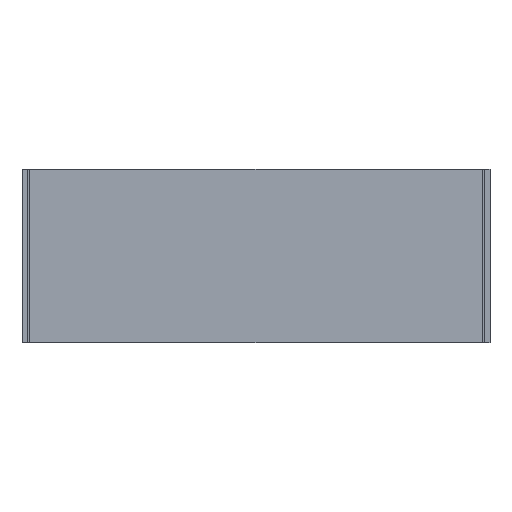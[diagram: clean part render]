
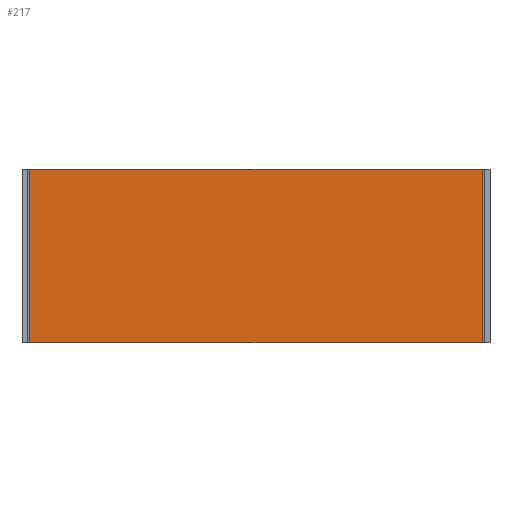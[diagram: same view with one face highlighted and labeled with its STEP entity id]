
A CAD part, front view. The second image highlights one B-rep face of the part: STEP entity #217.
In plain terms, the highlighted planar face has unit normal (0, -1, 0).
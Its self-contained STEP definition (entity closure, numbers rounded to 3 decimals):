
#4 = EDGE_LOOP ( 'NONE', ( #240, #1434, #881, #1329 ) ) ;
#22 = DIRECTION ( 'NONE',  ( 0., 0., -1. ) ) ;
#25 = DIRECTION ( 'NONE',  ( -1., 0., 0. ) ) ;
#96 = FACE_OUTER_BOUND ( 'NONE', #4, .T. ) ;
#99 = CARTESIAN_POINT ( 'NONE',  ( 241.3, -68.25, -92.5 ) ) ;
#108 = VECTOR ( 'NONE', #436, 1000. ) ;
#138 = CARTESIAN_POINT ( 'NONE',  ( 241.3, -68.25, 92.5 ) ) ;
#179 = DIRECTION ( 'NONE',  ( 1., 0., 0. ) ) ;
#213 = VERTEX_POINT ( 'NONE', #1474 ) ;
#217 = ADVANCED_FACE ( 'NONE', ( #96 ), #1348, .F. ) ;
#219 = VECTOR ( 'NONE', #22, 1000. ) ;
#240 = ORIENTED_EDGE ( 'NONE', *, *, #1019, .T. ) ;
#279 = VECTOR ( 'NONE', #179, 1000. ) ;
#292 = EDGE_CURVE ( 'NONE', #213, #585, #520, .T. ) ;
#340 = VERTEX_POINT ( 'NONE', #889 ) ;
#426 = EDGE_CURVE ( 'NONE', #213, #340, #1416, .T. ) ;
#436 = DIRECTION ( 'NONE',  ( 1., 0., 0. ) ) ;
#505 = VERTEX_POINT ( 'NONE', #99 ) ;
#514 = DIRECTION ( 'NONE',  ( 0., 1., 0. ) ) ;
#520 = LINE ( 'NONE', #1503, #1396 ) ;
#585 = VERTEX_POINT ( 'NONE', #1257 ) ;
#613 = LINE ( 'NONE', #1294, #108 ) ;
#618 = CARTESIAN_POINT ( 'NONE',  ( -241.3, -68.25, 92.5 ) ) ;
#743 = AXIS2_PLACEMENT_3D ( 'NONE', #618, #514, #25 ) ;
#761 = DIRECTION ( 'NONE',  ( 0., 0., -1. ) ) ;
#881 = ORIENTED_EDGE ( 'NONE', *, *, #426, .F. ) ;
#889 = CARTESIAN_POINT ( 'NONE',  ( 241.3, -68.25, 92.5 ) ) ;
#1004 = LINE ( 'NONE', #138, #219 ) ;
#1019 = EDGE_CURVE ( 'NONE', #585, #505, #613, .T. ) ;
#1050 = CARTESIAN_POINT ( 'NONE',  ( -241.3, -68.25, 92.5 ) ) ;
#1257 = CARTESIAN_POINT ( 'NONE',  ( -241.3, -68.25, -92.5 ) ) ;
#1294 = CARTESIAN_POINT ( 'NONE',  ( -241.3, -68.25, -92.5 ) ) ;
#1329 = ORIENTED_EDGE ( 'NONE', *, *, #292, .T. ) ;
#1348 = PLANE ( 'NONE',  #743 ) ;
#1396 = VECTOR ( 'NONE', #761, 1000. ) ;
#1416 = LINE ( 'NONE', #1050, #279 ) ;
#1434 = ORIENTED_EDGE ( 'NONE', *, *, #1440, .F. ) ;
#1440 = EDGE_CURVE ( 'NONE', #340, #505, #1004, .T. ) ;
#1474 = CARTESIAN_POINT ( 'NONE',  ( -241.3, -68.25, 92.5 ) ) ;
#1503 = CARTESIAN_POINT ( 'NONE',  ( -241.3, -68.25, 92.5 ) ) ;
